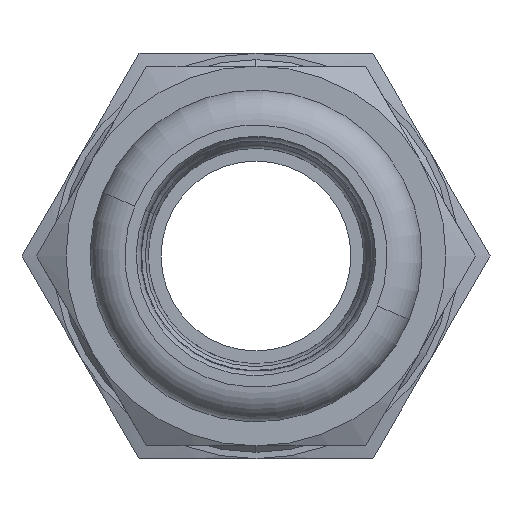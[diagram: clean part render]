
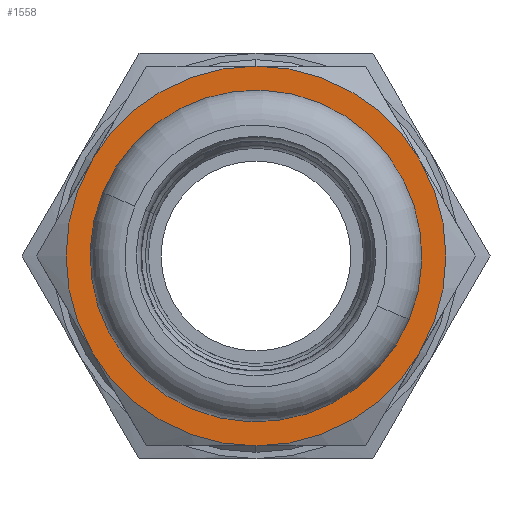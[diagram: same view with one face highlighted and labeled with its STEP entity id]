
A CAD part, left-side view. The second image highlights one B-rep face of the part: STEP entity #1558.
In plain terms, the highlighted planar face has unit normal (-1, 0, 0) as drawn and (0, 1, 0) by its records, which use the part's own axes.
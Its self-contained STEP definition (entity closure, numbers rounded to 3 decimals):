
#6 = VERTEX_POINT ( 'NONE', #2993 ) ;
#242 = CARTESIAN_POINT ( 'NONE',  ( 0., 15., 0. ) ) ;
#311 = AXIS2_PLACEMENT_3D ( 'NONE', #3637, #1702, #2677 ) ;
#641 = ORIENTED_EDGE ( 'NONE', *, *, #1136, .T. ) ;
#648 = CARTESIAN_POINT ( 'NONE',  ( 12.99, 15., 7.5 ) ) ;
#684 = AXIS2_PLACEMENT_3D ( 'NONE', #3498, #1518, #3814 ) ;
#687 = ORIENTED_EDGE ( 'NONE', *, *, #1160, .F. ) ;
#751 = VERTEX_POINT ( 'NONE', #3849 ) ;
#764 = CARTESIAN_POINT ( 'NONE',  ( 0., 15., 0. ) ) ;
#981 = DIRECTION ( 'NONE',  ( 0., 0., 1. ) ) ;
#1108 = ORIENTED_EDGE ( 'NONE', *, *, #3134, .F. ) ;
#1136 = EDGE_CURVE ( 'NONE', #3441, #4136, #3001, .T. ) ;
#1160 = EDGE_CURVE ( 'NONE', #6, #1897, #2011, .T. ) ;
#1170 = ORIENTED_EDGE ( 'NONE', *, *, #3454, .T. ) ;
#1219 = ORIENTED_EDGE ( 'NONE', *, *, #2378, .T. ) ;
#1271 = DIRECTION ( 'NONE',  ( 0., 0., 1. ) ) ;
#1379 = EDGE_CURVE ( 'NONE', #2558, #751, #3713, .T. ) ;
#1503 = EDGE_CURVE ( 'NONE', #751, #3441, #3273, .T. ) ;
#1510 = CIRCLE ( 'NONE', #311, 15. ) ;
#1518 = DIRECTION ( 'NONE',  ( 0., 1., 0. ) ) ;
#1555 = AXIS2_PLACEMENT_3D ( 'NONE', #2387, #1746, #2717 ) ;
#1558 = ADVANCED_FACE ( 'NONE', ( #2999, #4190 ), #2537, .T. ) ;
#1588 = EDGE_LOOP ( 'NONE', ( #1219, #1170, #2670, #3746, #3069, #641 ) ) ;
#1666 = CARTESIAN_POINT ( 'NONE',  ( -12.99, 15., 7.5 ) ) ;
#1687 = VERTEX_POINT ( 'NONE', #648 ) ;
#1689 = AXIS2_PLACEMENT_3D ( 'NONE', #3232, #2222, #4211 ) ;
#1702 = DIRECTION ( 'NONE',  ( 0., 1., 0. ) ) ;
#1746 = DIRECTION ( 'NONE',  ( 0., 1., 0. ) ) ;
#1769 = AXIS2_PLACEMENT_3D ( 'NONE', #4041, #3706, #2056 ) ;
#1784 = DIRECTION ( 'NONE',  ( 0., 0., 1. ) ) ;
#1897 = VERTEX_POINT ( 'NONE', #2026 ) ;
#2011 = CIRCLE ( 'NONE', #1769, 10.8 ) ;
#2026 = CARTESIAN_POINT ( 'NONE',  ( 0., 15., -10.8 ) ) ;
#2056 = DIRECTION ( 'NONE',  ( 0., 0., 1. ) ) ;
#2222 = DIRECTION ( 'NONE',  ( 0., 1., 0. ) ) ;
#2349 = AXIS2_PLACEMENT_3D ( 'NONE', #3553, #3251, #1271 ) ;
#2378 = EDGE_CURVE ( 'NONE', #4136, #2542, #3317, .T. ) ;
#2387 = CARTESIAN_POINT ( 'NONE',  ( 0., 15., 0. ) ) ;
#2408 = CIRCLE ( 'NONE', #3593, 15. ) ;
#2504 = DIRECTION ( 'NONE',  ( 0., 1., 0. ) ) ;
#2537 = PLANE ( 'NONE',  #2349 ) ;
#2542 = VERTEX_POINT ( 'NONE', #2921 ) ;
#2558 = VERTEX_POINT ( 'NONE', #2572 ) ;
#2572 = CARTESIAN_POINT ( 'NONE',  ( 12.99, 15., -7.5 ) ) ;
#2670 = ORIENTED_EDGE ( 'NONE', *, *, #3228, .T. ) ;
#2677 = DIRECTION ( 'NONE',  ( 0., 0., 1. ) ) ;
#2717 = DIRECTION ( 'NONE',  ( 0., 0., 1. ) ) ;
#2792 = AXIS2_PLACEMENT_3D ( 'NONE', #242, #2504, #2848 ) ;
#2848 = DIRECTION ( 'NONE',  ( 0., 0., 1. ) ) ;
#2870 = EDGE_LOOP ( 'NONE', ( #687, #1108 ) ) ;
#2921 = CARTESIAN_POINT ( 'NONE',  ( 0., 15., 15. ) ) ;
#2993 = CARTESIAN_POINT ( 'NONE',  ( 0., 15., 10.8 ) ) ;
#2999 = FACE_BOUND ( 'NONE', #2870, .T. ) ;
#3001 = CIRCLE ( 'NONE', #1555, 15. ) ;
#3049 = DIRECTION ( 'NONE',  ( 0., 1., 0. ) ) ;
#3069 = ORIENTED_EDGE ( 'NONE', *, *, #1503, .T. ) ;
#3134 = EDGE_CURVE ( 'NONE', #1897, #6, #3992, .T. ) ;
#3228 = EDGE_CURVE ( 'NONE', #1687, #2558, #1510, .T. ) ;
#3232 = CARTESIAN_POINT ( 'NONE',  ( 0., 15., 0. ) ) ;
#3251 = DIRECTION ( 'NONE',  ( 0., 1., 0. ) ) ;
#3265 = CARTESIAN_POINT ( 'NONE',  ( 0., 15., 0. ) ) ;
#3273 = CIRCLE ( 'NONE', #1689, 15. ) ;
#3317 = CIRCLE ( 'NONE', #684, 15. ) ;
#3441 = VERTEX_POINT ( 'NONE', #4080 ) ;
#3454 = EDGE_CURVE ( 'NONE', #2542, #1687, #2408, .T. ) ;
#3498 = CARTESIAN_POINT ( 'NONE',  ( 0., 15., 0. ) ) ;
#3553 = CARTESIAN_POINT ( 'NONE',  ( 0., 15., 0. ) ) ;
#3593 = AXIS2_PLACEMENT_3D ( 'NONE', #764, #3049, #1784 ) ;
#3596 = DIRECTION ( 'NONE',  ( 0., 1., 0. ) ) ;
#3637 = CARTESIAN_POINT ( 'NONE',  ( 0., 15., 0. ) ) ;
#3706 = DIRECTION ( 'NONE',  ( 0., 1., 0. ) ) ;
#3713 = CIRCLE ( 'NONE', #2792, 15. ) ;
#3746 = ORIENTED_EDGE ( 'NONE', *, *, #1379, .T. ) ;
#3814 = DIRECTION ( 'NONE',  ( 0., 0., 1. ) ) ;
#3849 = CARTESIAN_POINT ( 'NONE',  ( 0., 15., -15. ) ) ;
#3901 = AXIS2_PLACEMENT_3D ( 'NONE', #3265, #3596, #981 ) ;
#3992 = CIRCLE ( 'NONE', #3901, 10.8 ) ;
#4041 = CARTESIAN_POINT ( 'NONE',  ( 0., 15., 0. ) ) ;
#4080 = CARTESIAN_POINT ( 'NONE',  ( -12.99, 15., -7.5 ) ) ;
#4136 = VERTEX_POINT ( 'NONE', #1666 ) ;
#4190 = FACE_OUTER_BOUND ( 'NONE', #1588, .T. ) ;
#4211 = DIRECTION ( 'NONE',  ( 0., 0., 1. ) ) ;
